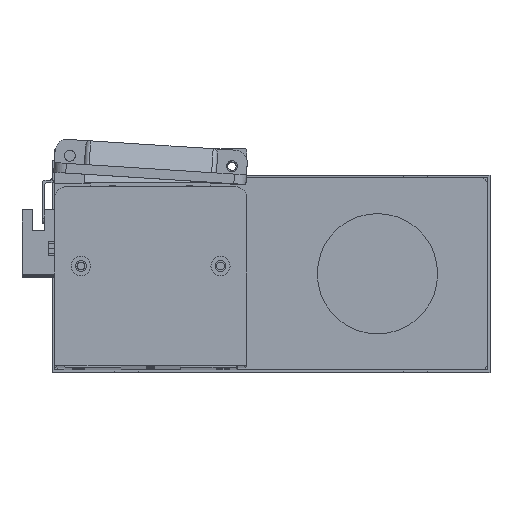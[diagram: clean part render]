
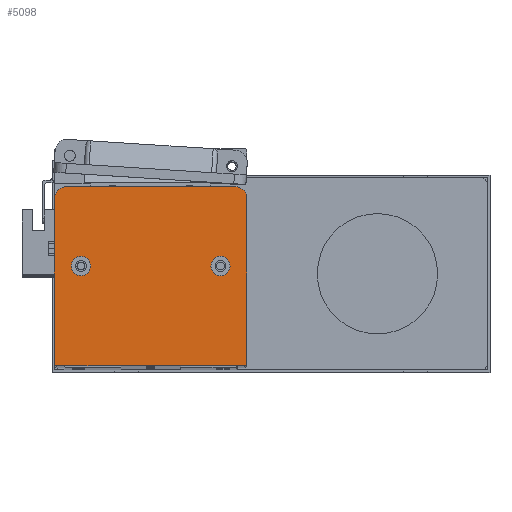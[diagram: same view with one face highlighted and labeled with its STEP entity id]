
A CAD part, top view. The second image highlights one B-rep face of the part: STEP entity #5098.
In plain terms, the highlighted planar face has unit normal (0, 0, 1).
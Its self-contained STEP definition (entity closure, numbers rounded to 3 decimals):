
#107 = CARTESIAN_POINT ( 'NONE',  ( 69., 41.5, 10. ) ) ;
#503 = DIRECTION ( 'NONE',  ( 0., 0., 1. ) ) ;
#744 = EDGE_CURVE ( 'NONE', #17108, #14547, #17276, .T. ) ;
#793 = DIRECTION ( 'NONE',  ( 0., 0., 1. ) ) ;
#985 = EDGE_CURVE ( 'NONE', #20146, #9208, #15972, .T. ) ;
#1535 = AXIS2_PLACEMENT_3D ( 'NONE', #107, #503, #22421 ) ;
#1563 = CARTESIAN_POINT ( 'NONE',  ( 7., 41.5, 10. ) ) ;
#2095 = CIRCLE ( 'NONE', #23724, 4. ) ;
#2234 = ORIENTED_EDGE ( 'NONE', *, *, #2698, .T. ) ;
#2698 = EDGE_CURVE ( 'NONE', #27751, #18386, #5548, .T. ) ;
#3072 = CARTESIAN_POINT ( 'NONE',  ( 75., 69.5, 10. ) ) ;
#3488 = DIRECTION ( 'NONE',  ( 1., 0., 0. ) ) ;
#3764 = AXIS2_PLACEMENT_3D ( 'NONE', #10093, #25925, #12407 ) ;
#3940 = CARTESIAN_POINT ( 'NONE',  ( 69., 41.5, 10. ) ) ;
#3964 = ORIENTED_EDGE ( 'NONE', *, *, #7545, .T. ) ;
#3998 = ORIENTED_EDGE ( 'NONE', *, *, #985, .T. ) ;
#4024 = ORIENTED_EDGE ( 'NONE', *, *, #6587, .T. ) ;
#4214 = CARTESIAN_POINT ( 'NONE',  ( 5., 69.5, 10. ) ) ;
#4590 = DIRECTION ( 'NONE',  ( -1., 0., 0. ) ) ;
#4729 = ORIENTED_EDGE ( 'NONE', *, *, #9997, .T. ) ;
#4758 = ORIENTED_EDGE ( 'NONE', *, *, #744, .F. ) ;
#4793 = CARTESIAN_POINT ( 'NONE',  ( 15., 41.5, 10. ) ) ;
#4917 = CARTESIAN_POINT ( 'NONE',  ( 79., 1., 10. ) ) ;
#5098 = ADVANCED_FACE ( 'NONE', ( #22690, #22449, #22537 ), #27137, .F. ) ;
#5135 = CARTESIAN_POINT ( 'NONE',  ( 65., 41.5, 10. ) ) ;
#5169 = VERTEX_POINT ( 'NONE', #4793 ) ;
#5171 = ORIENTED_EDGE ( 'NONE', *, *, #25457, .T. ) ;
#5373 = DIRECTION ( 'NONE',  ( -1., 0., 0. ) ) ;
#5473 = CARTESIAN_POINT ( 'NONE',  ( 79., 0., 10. ) ) ;
#5548 = LINE ( 'NONE', #21572, #5694 ) ;
#5694 = VECTOR ( 'NONE', #3488, 1000. ) ;
#5843 = EDGE_CURVE ( 'NONE', #5169, #18587, #18697, .T. ) ;
#6037 = CARTESIAN_POINT ( 'NONE',  ( 1., 0., 10. ) ) ;
#6221 = DIRECTION ( 'NONE',  ( 1., 0., 0. ) ) ;
#6382 = DIRECTION ( 'NONE',  ( 0., 0., 1. ) ) ;
#6512 = DIRECTION ( 'NONE',  ( -1., 0., 0. ) ) ;
#6587 = EDGE_CURVE ( 'NONE', #9208, #19528, #14032, .T. ) ;
#7175 = DIRECTION ( 'NONE',  ( -1., 0., 0. ) ) ;
#7545 = EDGE_CURVE ( 'NONE', #28002, #20146, #9757, .T. ) ;
#8223 = CARTESIAN_POINT ( 'NONE',  ( 5., 74.5, 10. ) ) ;
#8875 = CARTESIAN_POINT ( 'NONE',  ( 0., 74.5, 10. ) ) ;
#9110 = DIRECTION ( 'NONE',  ( 0., -1., 0. ) ) ;
#9111 = VECTOR ( 'NONE', #11411, 1000. ) ;
#9187 = CARTESIAN_POINT ( 'NONE',  ( 80., 69.5, 10. ) ) ;
#9208 = VERTEX_POINT ( 'NONE', #8223 ) ;
#9272 = LINE ( 'NONE', #22626, #9111 ) ;
#9398 = DIRECTION ( 'NONE',  ( -1., 0., 0. ) ) ;
#9757 = CIRCLE ( 'NONE', #14077, 5. ) ;
#9997 = EDGE_CURVE ( 'NONE', #18386, #26462, #18939, .T. ) ;
#10012 = AXIS2_PLACEMENT_3D ( 'NONE', #11319, #18097, #4590 ) ;
#10093 = CARTESIAN_POINT ( 'NONE',  ( 11., 41.5, 10. ) ) ;
#10239 = CARTESIAN_POINT ( 'NONE',  ( 0., 69.5, 10. ) ) ;
#10872 = EDGE_CURVE ( 'NONE', #26462, #28002, #9272, .T. ) ;
#11319 = CARTESIAN_POINT ( 'NONE',  ( 0., 0., 10. ) ) ;
#11411 = DIRECTION ( 'NONE',  ( 0., 1., 0. ) ) ;
#12407 = DIRECTION ( 'NONE',  ( 1., 0., 0. ) ) ;
#12734 = AXIS2_PLACEMENT_3D ( 'NONE', #4214, #19975, #6512 ) ;
#12983 = AXIS2_PLACEMENT_3D ( 'NONE', #4917, #20637, #7175 ) ;
#13292 = CARTESIAN_POINT ( 'NONE',  ( 73., 41.5, 10. ) ) ;
#13328 = EDGE_LOOP ( 'NONE', ( #27637, #27482 ) ) ;
#14032 = CIRCLE ( 'NONE', #12734, 5. ) ;
#14077 = AXIS2_PLACEMENT_3D ( 'NONE', #3072, #18854, #5373 ) ;
#14351 = CARTESIAN_POINT ( 'NONE',  ( 1., 1., 10. ) ) ;
#14547 = VERTEX_POINT ( 'NONE', #5135 ) ;
#15273 = CARTESIAN_POINT ( 'NONE',  ( 75., 74.5, 10. ) ) ;
#15972 = LINE ( 'NONE', #8875, #16309 ) ;
#16309 = VECTOR ( 'NONE', #9398, 1000. ) ;
#16636 = DIRECTION ( 'NONE',  ( -1., 0., 0. ) ) ;
#17086 = EDGE_LOOP ( 'NONE', ( #5171, #27384, #2234, #4729, #29004, #3964, #3998, #4024 ) ) ;
#17108 = VERTEX_POINT ( 'NONE', #13292 ) ;
#17276 = CIRCLE ( 'NONE', #1535, 4. ) ;
#18097 = DIRECTION ( 'NONE',  ( 0., 0., -1. ) ) ;
#18113 = EDGE_CURVE ( 'NONE', #18587, #5169, #2095, .T. ) ;
#18114 = AXIS2_PLACEMENT_3D ( 'NONE', #14351, #793, #16636 ) ;
#18386 = VERTEX_POINT ( 'NONE', #5473 ) ;
#18587 = VERTEX_POINT ( 'NONE', #1563 ) ;
#18697 = CIRCLE ( 'NONE', #3764, 4. ) ;
#18854 = DIRECTION ( 'NONE',  ( 0., 0., 1. ) ) ;
#18939 = CIRCLE ( 'NONE', #12983, 1. ) ;
#19528 = VERTEX_POINT ( 'NONE', #10239 ) ;
#19706 = DIRECTION ( 'NONE',  ( 0., 0., 1. ) ) ;
#19848 = CARTESIAN_POINT ( 'NONE',  ( 11., 41.5, 10. ) ) ;
#19975 = DIRECTION ( 'NONE',  ( 0., 0., 1. ) ) ;
#20038 = EDGE_LOOP ( 'NONE', ( #4758, #27719 ) ) ;
#20146 = VERTEX_POINT ( 'NONE', #15273 ) ;
#20637 = DIRECTION ( 'NONE',  ( 0., 0., 1. ) ) ;
#21171 = CARTESIAN_POINT ( 'NONE',  ( 0., 1., 10. ) ) ;
#21572 = CARTESIAN_POINT ( 'NONE',  ( 0., 0., 10. ) ) ;
#22080 = EDGE_CURVE ( 'NONE', #24997, #27751, #23462, .T. ) ;
#22138 = DIRECTION ( 'NONE',  ( 1., 0., 0. ) ) ;
#22421 = DIRECTION ( 'NONE',  ( 1., 0., 0. ) ) ;
#22449 = FACE_BOUND ( 'NONE', #13328, .T. ) ;
#22537 = FACE_OUTER_BOUND ( 'NONE', #17086, .T. ) ;
#22616 = CARTESIAN_POINT ( 'NONE',  ( 0., 0., 10. ) ) ;
#22626 = CARTESIAN_POINT ( 'NONE',  ( 80., 0., 10. ) ) ;
#22690 = FACE_BOUND ( 'NONE', #20038, .T. ) ;
#23462 = CIRCLE ( 'NONE', #18114, 1. ) ;
#23499 = CARTESIAN_POINT ( 'NONE',  ( 80., 1., 10. ) ) ;
#23724 = AXIS2_PLACEMENT_3D ( 'NONE', #19848, #6382, #22138 ) ;
#24245 = LINE ( 'NONE', #22616, #24516 ) ;
#24516 = VECTOR ( 'NONE', #9110, 1000. ) ;
#24997 = VERTEX_POINT ( 'NONE', #21171 ) ;
#25457 = EDGE_CURVE ( 'NONE', #19528, #24997, #24245, .T. ) ;
#25925 = DIRECTION ( 'NONE',  ( 0., 0., 1. ) ) ;
#26105 = EDGE_CURVE ( 'NONE', #14547, #17108, #27924, .T. ) ;
#26343 = AXIS2_PLACEMENT_3D ( 'NONE', #3940, #19706, #6221 ) ;
#26462 = VERTEX_POINT ( 'NONE', #23499 ) ;
#27137 = PLANE ( 'NONE',  #10012 ) ;
#27384 = ORIENTED_EDGE ( 'NONE', *, *, #22080, .T. ) ;
#27482 = ORIENTED_EDGE ( 'NONE', *, *, #18113, .F. ) ;
#27637 = ORIENTED_EDGE ( 'NONE', *, *, #5843, .F. ) ;
#27719 = ORIENTED_EDGE ( 'NONE', *, *, #26105, .F. ) ;
#27751 = VERTEX_POINT ( 'NONE', #6037 ) ;
#27924 = CIRCLE ( 'NONE', #26343, 4. ) ;
#28002 = VERTEX_POINT ( 'NONE', #9187 ) ;
#29004 = ORIENTED_EDGE ( 'NONE', *, *, #10872, .T. ) ;
